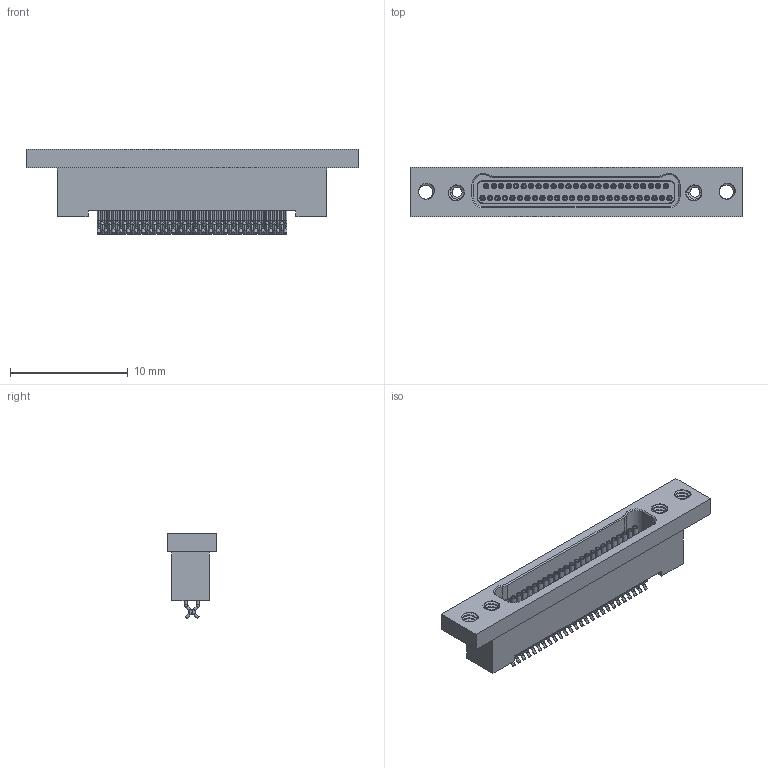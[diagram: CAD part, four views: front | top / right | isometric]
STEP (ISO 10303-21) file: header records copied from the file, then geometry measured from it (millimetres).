
FILE_DESCRIPTION (( 'STEP AP214' ), '1' );
FILE_NAME ('A29800-051 REV G.STEP', '2021-02-26T17:32:57', ( '' ), ( '' ), 'SwSTEP 2.0', 'SolidWorks 2019', '' );
FILE_SCHEMA (( 'AUTOMOTIVE_DESIGN' ));
Length unit declared in the file: inch
Products named in the file (1): A29800-051 REV G
Bounding box: 28.19 x 4.2 x 7.23 mm (x, y, z)
Volume: 325.8 mm3; surface area: 1200.2 mm2
Topology: 1 solids, 4 shells, 1235 faces, 2795 edges, 1635 vertices
Faces by surface type: cylinder 588, plane 263, torus 204, cone 120, bspline 60
Entity records: 56536 total; most frequent: CARTESIAN_POINT 13140, DIRECTION 6093, ORIENTED_EDGE 5386, EDGE_CURVE 2693, AXIS2_PLACEMENT_3D 2476, VERTEX_POINT 1635, EDGE_LOOP 1412, CIRCLE 1300
